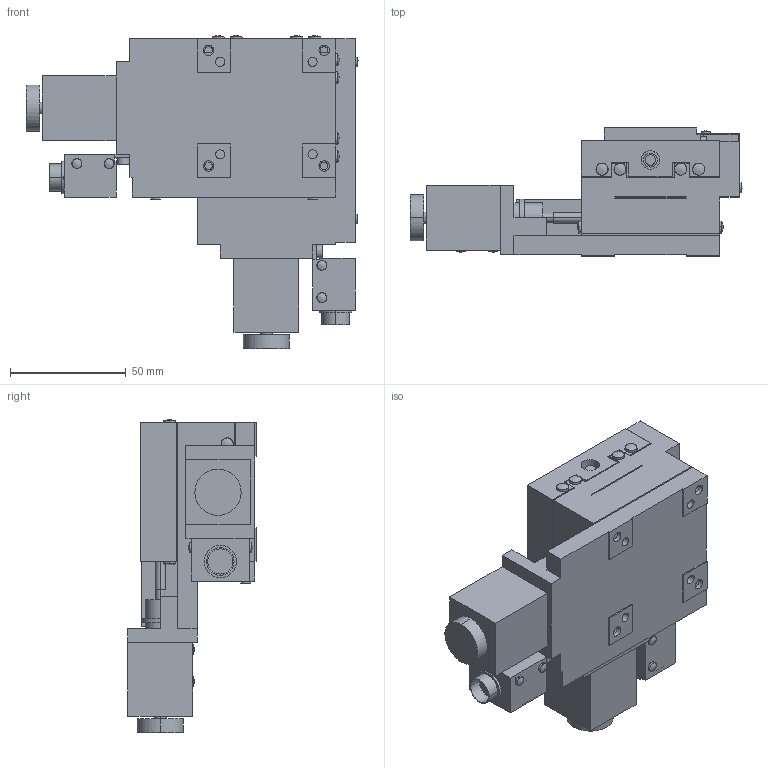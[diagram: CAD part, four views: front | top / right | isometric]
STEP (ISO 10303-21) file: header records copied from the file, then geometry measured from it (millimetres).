
FILE_DESCRIPTION (( 'STEP AP203' ), '1' );
FILE_NAME ('ALD-6012-G0M-R.STEP', '2010-12-21T02:06:45', ( ' ' ), ( ' ' ), 'SwSTEP 2.0', 'SolidWorks 2010', '' );
FILE_SCHEMA (( 'CONFIG_CONTROL_DESIGN' ));
Length unit declared in the file: millimetre
Products named in the file (4): ALD-6012-G0M-R-2; ALD-6012-G0M-R-3; ALD-6012-G0M-R; ALD-6012-G0M-R-1
Assembly tree (3 placements, depth 2):
  ALD-6012-G0M-R
    ALD-6012-G0M-R-3
    ALD-6012-G0M-R-1
    ALD-6012-G0M-R-2
Bounding box: 143.66 x 55.5 x 135.44 mm (x, y, z)
Volume: 313101 mm3; surface area: 100314.6 mm2
Topology: 3 solids, 9 shells, 568 faces, 1370 edges, 888 vertices
Faces by surface type: plane 298, cylinder 186, cone 56, bspline 28
Entity records: 22588 total; most frequent: CARTESIAN_POINT 8536, DIRECTION 2890, ORIENTED_EDGE 2740, EDGE_CURVE 1370, AXIS2_PLACEMENT_3D 1034, VERTEX_POINT 888, VECTOR 822, LINE 822
